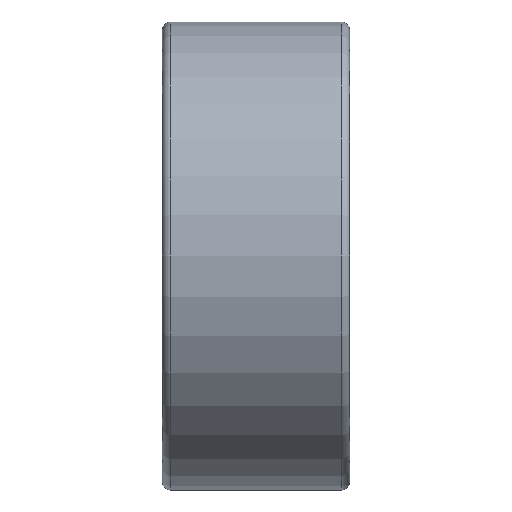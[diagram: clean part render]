
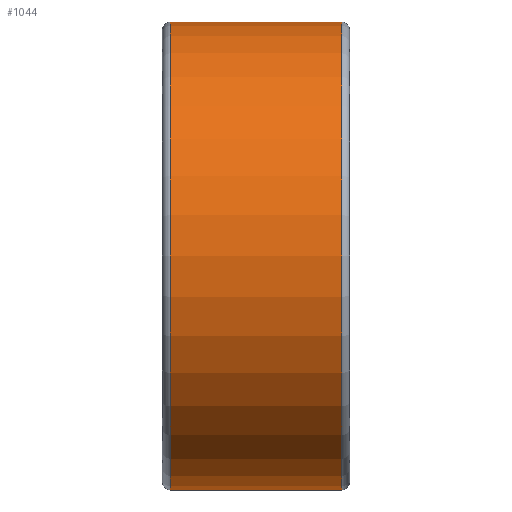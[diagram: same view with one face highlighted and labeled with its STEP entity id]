
A CAD part, front view. The second image highlights one B-rep face of the part: STEP entity #1044.
In plain terms, the highlighted cylindrical face has radius 17.5 mm (diameter 35 mm), a full revolution.
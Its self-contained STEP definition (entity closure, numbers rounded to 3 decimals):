
#205=FACE_OUTER_BOUND('',#269,.T.);
#269=EDGE_LOOP('',(#765,#766,#767,#768,#769,#770));
#329=LINE('',#1816,#341);
#341=VECTOR('',#1462,17.5);
#374=CIRCLE('',#1221,17.5);
#375=CIRCLE('',#1222,17.5);
#377=CIRCLE('',#1225,17.5);
#378=CIRCLE('',#1226,17.5);
#469=VERTEX_POINT('',#1807);
#470=VERTEX_POINT('',#1808);
#471=VERTEX_POINT('',#1813);
#472=VERTEX_POINT('',#1814);
#581=EDGE_CURVE('',#469,#470,#374,.T.);
#582=EDGE_CURVE('',#470,#469,#375,.T.);
#584=EDGE_CURVE('',#471,#472,#377,.T.);
#585=EDGE_CURVE('',#471,#469,#329,.T.);
#586=EDGE_CURVE('',#472,#471,#378,.T.);
#765=ORIENTED_EDGE('',*,*,#584,.F.);
#766=ORIENTED_EDGE('',*,*,#585,.T.);
#767=ORIENTED_EDGE('',*,*,#581,.T.);
#768=ORIENTED_EDGE('',*,*,#582,.T.);
#769=ORIENTED_EDGE('',*,*,#585,.F.);
#770=ORIENTED_EDGE('',*,*,#586,.F.);
#1011=CYLINDRICAL_SURFACE('',#1224,17.5);
#1044=ADVANCED_FACE('',(#205),#1011,.T.);
#1221=AXIS2_PLACEMENT_3D('',#1809,#1452,#1453);
#1222=AXIS2_PLACEMENT_3D('',#1810,#1454,#1455);
#1224=AXIS2_PLACEMENT_3D('',#1812,#1458,#1459);
#1225=AXIS2_PLACEMENT_3D('',#1815,#1460,#1461);
#1226=AXIS2_PLACEMENT_3D('',#1817,#1463,#1464);
#1452=DIRECTION('center_axis',(1.,0.,0.));
#1453=DIRECTION('ref_axis',(0.,0.,-1.));
#1454=DIRECTION('center_axis',(1.,0.,0.));
#1455=DIRECTION('ref_axis',(0.,0.,-1.));
#1458=DIRECTION('center_axis',(1.,0.,0.));
#1459=DIRECTION('ref_axis',(0.,1.,0.));
#1460=DIRECTION('center_axis',(1.,0.,0.));
#1461=DIRECTION('ref_axis',(0.,0.,-1.));
#1462=DIRECTION('',(-1.,0.,0.));
#1463=DIRECTION('center_axis',(1.,0.,0.));
#1464=DIRECTION('ref_axis',(0.,0.,-1.));
#1807=CARTESIAN_POINT('',(-6.4,-17.5,0.));
#1808=CARTESIAN_POINT('',(-6.4,0.,17.5));
#1809=CARTESIAN_POINT('Origin',(-6.4,0.,0.));
#1810=CARTESIAN_POINT('Origin',(-6.4,0.,0.));
#1812=CARTESIAN_POINT('Origin',(0.,0.,0.));
#1813=CARTESIAN_POINT('',(6.4,-17.5,0.));
#1814=CARTESIAN_POINT('',(6.4,0.,17.5));
#1815=CARTESIAN_POINT('Origin',(6.4,0.,0.));
#1816=CARTESIAN_POINT('',(0.,-17.5,0.));
#1817=CARTESIAN_POINT('Origin',(6.4,0.,0.));
